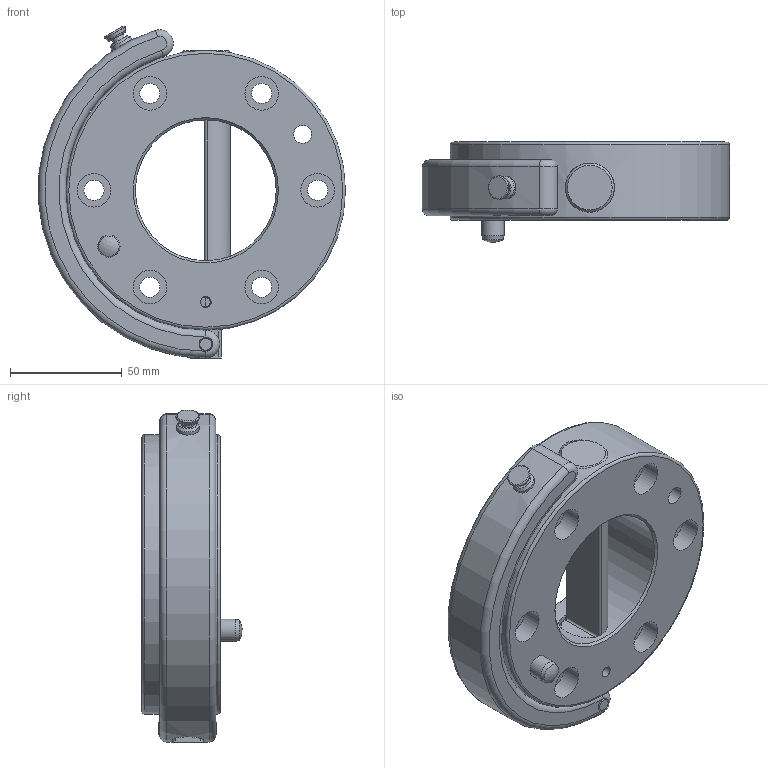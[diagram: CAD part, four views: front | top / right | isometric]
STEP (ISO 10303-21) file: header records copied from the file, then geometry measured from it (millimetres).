
FILE_DESCRIPTION((''),'2;1');
FILE_NAME('T:\CAD\Standard\Daten\3D-Datenbank\MGW\MGW125\step-Daten\G-MGW125-2O.stp','2011-05-12T13:11:28',('Yvonne'),(''),'Autodesk Inventor 2011','Autodesk Inventor 2011','');
FILE_SCHEMA(('AUTOMOTIVE_DESIGN { 1 0 10303 214 1 1 1 1 }'));
Length unit declared in the file: millimetre
Products named in the file (1): Bauteil3
Bounding box: 137.32 x 44.75 x 148.48 mm (x, y, z)
Volume: 370525.2 mm3; surface area: 65988.9 mm2
Topology: 1 solids, 2 shells, 141 faces, 320 edges, 199 vertices
Faces by surface type: cylinder 56, plane 49, cone 16, torus 14, bspline 4, sphere 2
Full cylindrical faces by diameter (mm): 4 x1, 4.917 x3, 5.58 x1, 6 x2, 6.2 x1, 6.5 x1, 8 x2, 9 x6, 10 x2, 10.1 x1, 10.6 x1, 15 x6, 22 x2, 63 x1, 125 x1
Entity records: 4265 total; most frequent: CARTESIAN_POINT 1141, DIRECTION 634, ORIENTED_EDGE 506, AXIS2_PLACEMENT_3D 283, EDGE_CURVE 253, EDGE_LOOP 230, VERTEX_POINT 183, CIRCLE 145
